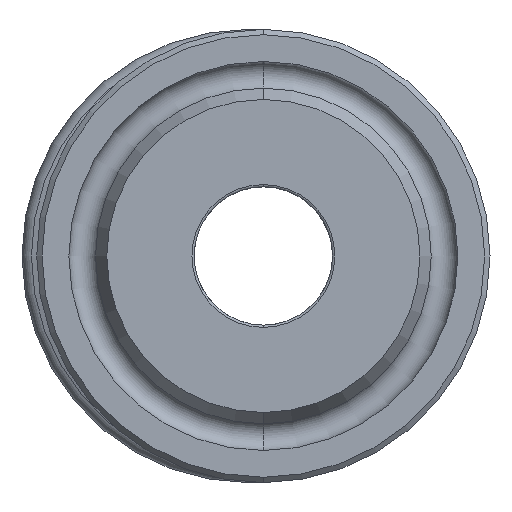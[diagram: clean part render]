
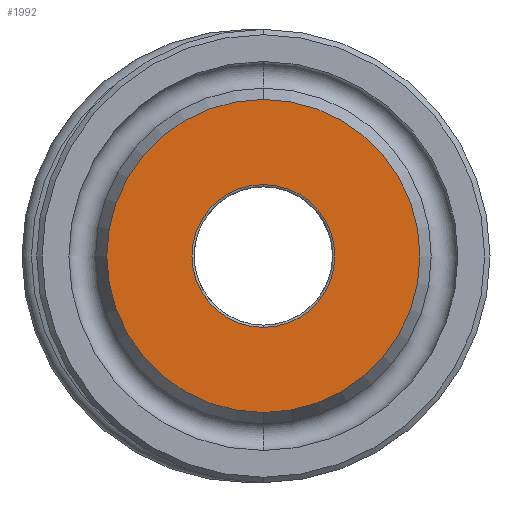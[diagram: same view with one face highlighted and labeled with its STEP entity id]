
A CAD part, left-side view. The second image highlights one B-rep face of the part: STEP entity #1992.
In plain terms, the highlighted planar face has unit normal (-1, 0, 0).
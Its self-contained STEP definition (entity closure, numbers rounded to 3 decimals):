
#57 = CARTESIAN_POINT ( 'NONE',  ( 0.8, 7.947, 0. ) ) ;
#102 = CIRCLE ( 'NONE', #655, 8.772 ) ;
#222 = CARTESIAN_POINT ( 'NONE',  ( 0.8, -0.825, 4.002 ) ) ;
#236 = VERTEX_POINT ( 'NONE', #745 ) ;
#363 = DIRECTION ( 'NONE',  ( 1., 0., 0. ) ) ;
#400 = CARTESIAN_POINT ( 'NONE',  ( 0.8, -0.825, 0. ) ) ;
#513 = EDGE_CURVE ( 'NONE', #1477, #236, #102, .T. ) ;
#553 = DIRECTION ( 'NONE',  ( 0., 0., -1. ) ) ;
#559 = EDGE_CURVE ( 'NONE', #236, #1477, #1301, .T. ) ;
#567 = CARTESIAN_POINT ( 'NONE',  ( 0.8, -0.825, 8.772 ) ) ;
#608 = ORIENTED_EDGE ( 'NONE', *, *, #513, .F. ) ;
#622 = CARTESIAN_POINT ( 'NONE',  ( 0.8, -0.825, 0. ) ) ;
#655 = AXIS2_PLACEMENT_3D ( 'NONE', #1968, #1986, #2029 ) ;
#670 = PLANE ( 'NONE',  #1754 ) ;
#708 = DIRECTION ( 'NONE',  ( 1., 0., 0. ) ) ;
#720 = DIRECTION ( 'NONE',  ( 0., 0., -1. ) ) ;
#745 = CARTESIAN_POINT ( 'NONE',  ( 0.8, -0.825, -8.772 ) ) ;
#753 = ORIENTED_EDGE ( 'NONE', *, *, #978, .T. ) ;
#776 = EDGE_LOOP ( 'NONE', ( #1955, #608 ) ) ;
#841 = CARTESIAN_POINT ( 'NONE',  ( 0.8, -0.825, -4.002 ) ) ;
#941 = EDGE_CURVE ( 'NONE', #2014, #2004, #1600, .T. ) ;
#967 = AXIS2_PLACEMENT_3D ( 'NONE', #622, #1449, #720 ) ;
#978 = EDGE_CURVE ( 'NONE', #2004, #2014, #1121, .T. ) ;
#993 = FACE_BOUND ( 'NONE', #1150, .T. ) ;
#1009 = ORIENTED_EDGE ( 'NONE', *, *, #941, .T. ) ;
#1121 = CIRCLE ( 'NONE', #2003, 4.002 ) ;
#1150 = EDGE_LOOP ( 'NONE', ( #753, #1009 ) ) ;
#1301 = CIRCLE ( 'NONE', #967, 8.772 ) ;
#1379 = FACE_OUTER_BOUND ( 'NONE', #776, .T. ) ;
#1449 = DIRECTION ( 'NONE',  ( 1., 0., 0. ) ) ;
#1468 = DIRECTION ( 'NONE',  ( 0., 0., -1. ) ) ;
#1477 = VERTEX_POINT ( 'NONE', #567 ) ;
#1512 = DIRECTION ( 'NONE',  ( 1., 0., 0. ) ) ;
#1600 = CIRCLE ( 'NONE', #1789, 4.002 ) ;
#1663 = CARTESIAN_POINT ( 'NONE',  ( 0.8, -0.825, 0. ) ) ;
#1754 = AXIS2_PLACEMENT_3D ( 'NONE', #57, #363, #1468 ) ;
#1789 = AXIS2_PLACEMENT_3D ( 'NONE', #1663, #708, #1824 ) ;
#1824 = DIRECTION ( 'NONE',  ( 0., 0., -1. ) ) ;
#1955 = ORIENTED_EDGE ( 'NONE', *, *, #559, .F. ) ;
#1968 = CARTESIAN_POINT ( 'NONE',  ( 0.8, -0.825, 0. ) ) ;
#1986 = DIRECTION ( 'NONE',  ( 1., 0., 0. ) ) ;
#1992 = ADVANCED_FACE ( 'NONE', ( #993, #1379 ), #670, .F. ) ;
#2003 = AXIS2_PLACEMENT_3D ( 'NONE', #400, #1512, #553 ) ;
#2004 = VERTEX_POINT ( 'NONE', #841 ) ;
#2014 = VERTEX_POINT ( 'NONE', #222 ) ;
#2029 = DIRECTION ( 'NONE',  ( 0., 0., -1. ) ) ;
